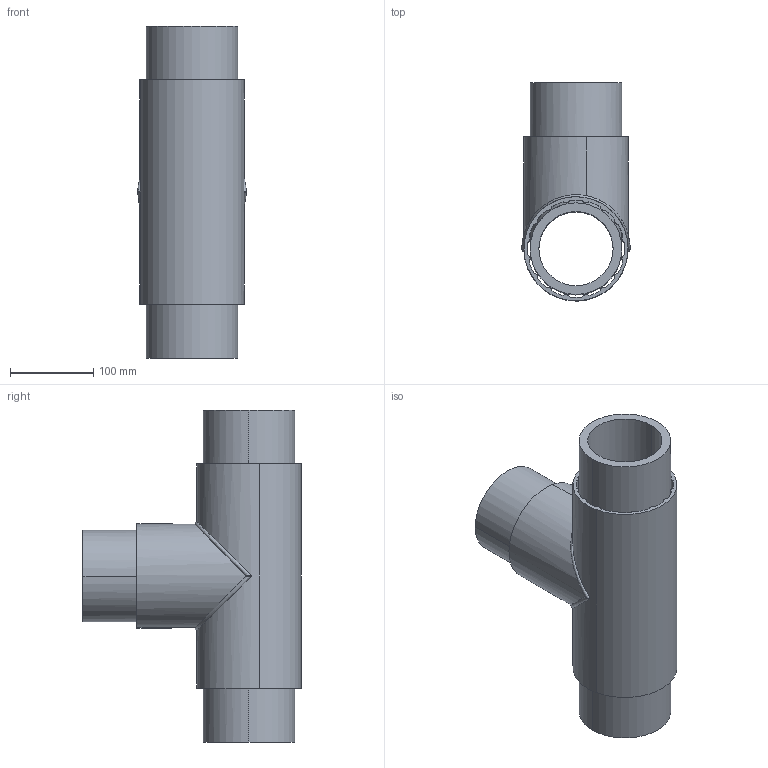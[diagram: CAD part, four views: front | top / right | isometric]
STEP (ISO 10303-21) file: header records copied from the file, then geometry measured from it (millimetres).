
FILE_DESCRIPTION (( 'STEP AP214' ), '1' );
FILE_NAME ('KP_8-125-110SCEC.STEP', '2023-03-07T14:12:05', ( '' ), ( '' ), 'SwSTEP 2.0', 'SolidWorks 2022', '' );
FILE_SCHEMA (( 'AUTOMOTIVE_DESIGN' ));
Length unit declared in the file: millimetre
Products named in the file (1): KP_8-125-110SCEC
Bounding box: 130.4 x 262.69 x 400 mm (x, y, z)
Volume: 2343899.3 mm3; surface area: 608238.8 mm2
Topology: 2 solids, 2 shells, 128 faces, 338 edges, 206 vertices
Faces by surface type: cylinder 110, bspline 10, plane 6, sphere 2
Entity records: 5201 total; most frequent: CARTESIAN_POINT 1938, ORIENTED_EDGE 664, DIRECTION 620, EDGE_CURVE 332, AXIS2_PLACEMENT_3D 254, VERTEX_POINT 206, CIRCLE 135, EDGE_LOOP 134
